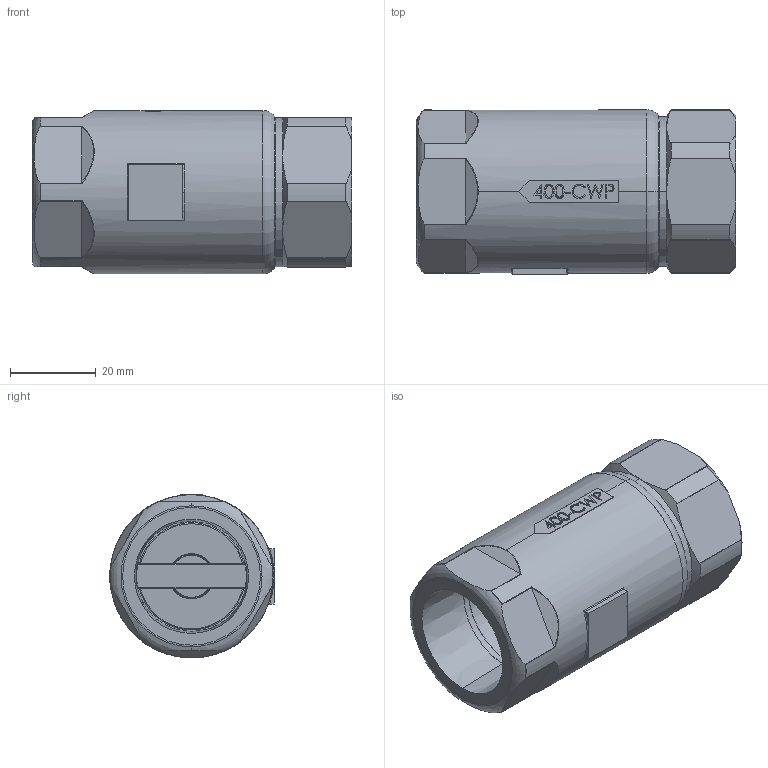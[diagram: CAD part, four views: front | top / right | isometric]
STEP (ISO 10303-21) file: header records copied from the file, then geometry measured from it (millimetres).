
FILE_DESCRIPTION (( 'STEP AP203' ), '1' );
FILE_NAME ('SC-6.STEP', '2022-09-21T14:42:31', ( '' ), ( '' ), 'SwSTEP 2.0', 'SolidWorks 2021', '' );
FILE_SCHEMA (( 'CONFIG_CONTROL_DESIGN' ));
Length unit declared in the file: inch
Products named in the file (1): SC-6
Bounding box: 74.53 x 38.39 x 38.23 mm (x, y, z)
Volume: 47235.8 mm3; surface area: 19007.8 mm2
Topology: 2 solids, 2 shells, 258 faces, 654 edges, 422 vertices
Faces by surface type: plane 113, cylinder 48, bspline 45, torus 30, cone 20, sphere 2
Entity records: 13174 total; most frequent: CARTESIAN_POINT 7320, ORIENTED_EDGE 1308, DIRECTION 1031, EDGE_CURVE 654, VERTEX_POINT 422, AXIS2_PLACEMENT_3D 373, VECTOR 285, LINE 285
